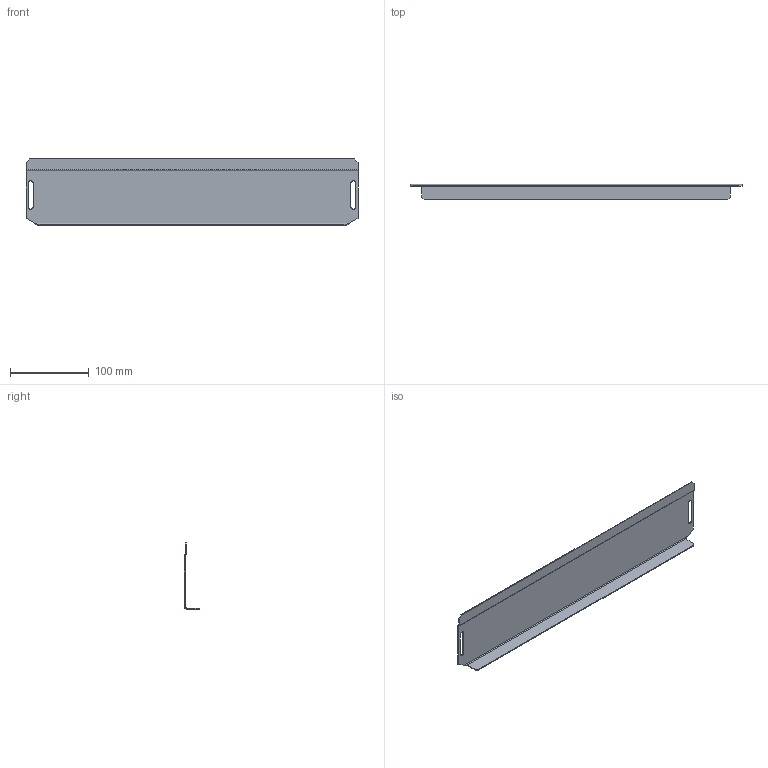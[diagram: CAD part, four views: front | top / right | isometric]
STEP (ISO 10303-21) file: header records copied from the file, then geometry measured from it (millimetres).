
FILE_DESCRIPTION (( 'STEP AP214' ), '1' );
FILE_NAME ('PKV 60 P Ïàíåëü ïîäâèæíàÿ.STEP', '2021-05-24T10:01:33', ( '' ), ( '' ), 'SwSTEP 2.0', 'SolidWorks 2018', '' );
FILE_SCHEMA (( 'AUTOMOTIVE_DESIGN' ));
Length unit declared in the file: millimetre
Products named in the file (1): PKV 60 P Ïàíåëü ïîäâèæíàÿ
Bounding box: 420.5 x 19 x 83.6 mm (x, y, z)
Volume: 49840.2 mm3; surface area: 84483.4 mm2
Topology: 1 solids, 1 shells, 42 faces, 100 edges, 60 vertices
Faces by surface type: plane 28, cylinder 12, bspline 2
Entity records: 1286 total; most frequent: CARTESIAN_POINT 285, ORIENTED_EDGE 200, DIRECTION 194, EDGE_CURVE 100, VECTOR 72, LINE 72, AXIS2_PLACEMENT_3D 61, VERTEX_POINT 60
